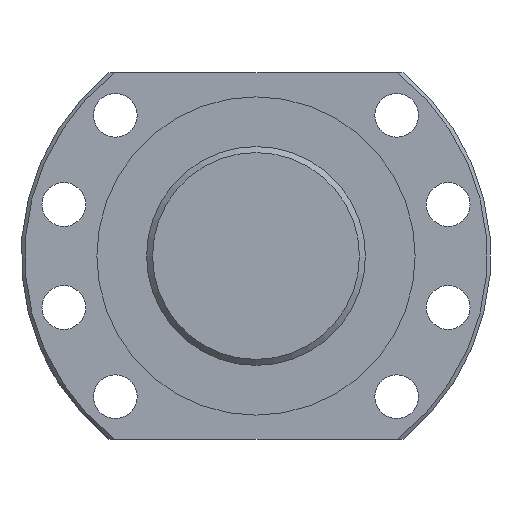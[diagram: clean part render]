
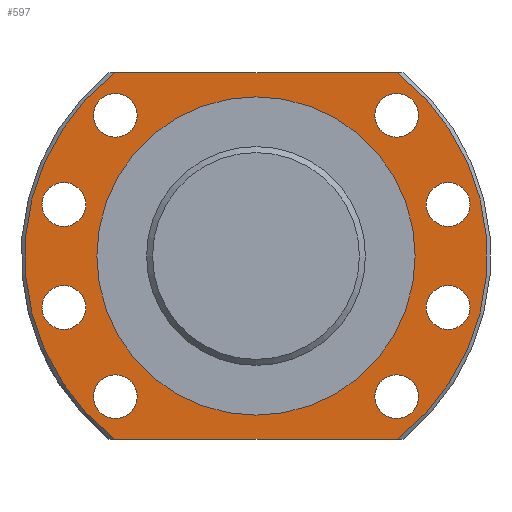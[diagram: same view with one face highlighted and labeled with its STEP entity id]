
A CAD part, left-side view. The second image highlights one B-rep face of the part: STEP entity #597.
In plain terms, the highlighted planar face has unit normal (-1, 0, 0).
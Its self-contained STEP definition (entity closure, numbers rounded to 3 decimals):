
#24=LINE('',#1102,#32);
#25=LINE('',#1103,#33);
#32=VECTOR('',#879,1000.);
#33=VECTOR('',#880,1000.);
#159=ORIENTED_EDGE('',*,*,#263,.T.);
#160=ORIENTED_EDGE('',*,*,#264,.T.);
#161=ORIENTED_EDGE('',*,*,#265,.T.);
#162=ORIENTED_EDGE('',*,*,#266,.T.);
#163=ORIENTED_EDGE('',*,*,#267,.T.);
#164=ORIENTED_EDGE('',*,*,#268,.T.);
#165=ORIENTED_EDGE('',*,*,#269,.T.);
#166=ORIENTED_EDGE('',*,*,#270,.T.);
#167=ORIENTED_EDGE('',*,*,#271,.T.);
#168=ORIENTED_EDGE('',*,*,#272,.F.);
#169=ORIENTED_EDGE('',*,*,#233,.F.);
#170=ORIENTED_EDGE('',*,*,#273,.F.);
#171=ORIENTED_EDGE('',*,*,#261,.F.);
#233=EDGE_CURVE('',#295,#294,#343,.T.);
#261=EDGE_CURVE('',#319,#320,#366,.T.);
#263=EDGE_CURVE('',#321,#321,#367,.T.);
#264=EDGE_CURVE('',#322,#322,#368,.F.);
#265=EDGE_CURVE('',#323,#323,#369,.F.);
#266=EDGE_CURVE('',#324,#324,#370,.F.);
#267=EDGE_CURVE('',#325,#325,#371,.F.);
#268=EDGE_CURVE('',#326,#326,#372,.F.);
#269=EDGE_CURVE('',#327,#327,#373,.F.);
#270=EDGE_CURVE('',#328,#328,#374,.F.);
#271=EDGE_CURVE('',#329,#329,#375,.F.);
#272=EDGE_CURVE('',#294,#319,#24,.T.);
#273=EDGE_CURVE('',#320,#295,#25,.T.);
#294=VERTEX_POINT('',#994);
#295=VERTEX_POINT('',#999);
#319=VERTEX_POINT('',#1076);
#320=VERTEX_POINT('',#1078);
#321=VERTEX_POINT('',#1085);
#322=VERTEX_POINT('',#1087);
#323=VERTEX_POINT('',#1089);
#324=VERTEX_POINT('',#1091);
#325=VERTEX_POINT('',#1093);
#326=VERTEX_POINT('',#1095);
#327=VERTEX_POINT('',#1097);
#328=VERTEX_POINT('',#1099);
#329=VERTEX_POINT('',#1101);
#343=CIRCLE('',#660,58.1);
#366=CIRCLE('',#699,58.1);
#367=CIRCLE('',#701,40.);
#368=CIRCLE('',#702,5.5);
#369=CIRCLE('',#703,5.5);
#370=CIRCLE('',#704,5.5);
#371=CIRCLE('',#705,5.5);
#372=CIRCLE('',#706,5.5);
#373=CIRCLE('',#707,5.5);
#374=CIRCLE('',#708,5.5);
#375=CIRCLE('',#709,5.5);
#432=EDGE_LOOP('',(#159));
#433=EDGE_LOOP('',(#160));
#434=EDGE_LOOP('',(#161));
#435=EDGE_LOOP('',(#162));
#436=EDGE_LOOP('',(#163));
#437=EDGE_LOOP('',(#164));
#438=EDGE_LOOP('',(#165));
#439=EDGE_LOOP('',(#166));
#440=EDGE_LOOP('',(#167));
#441=EDGE_LOOP('',(#168,#169,#170,#171));
#522=FACE_BOUND('',#432,.T.);
#523=FACE_BOUND('',#433,.T.);
#524=FACE_BOUND('',#434,.T.);
#525=FACE_BOUND('',#435,.T.);
#526=FACE_BOUND('',#436,.T.);
#527=FACE_BOUND('',#437,.T.);
#528=FACE_BOUND('',#438,.T.);
#529=FACE_BOUND('',#439,.T.);
#530=FACE_BOUND('',#440,.T.);
#531=FACE_BOUND('',#441,.T.);
#568=PLANE('',#700);
#597=ADVANCED_FACE('',(#522,#523,#524,#525,#526,#527,#528,#529,#530,#531),
#568,.T.);
#660=AXIS2_PLACEMENT_3D('',#1000,#777,#778);
#699=AXIS2_PLACEMENT_3D('',#1077,#857,#858);
#700=AXIS2_PLACEMENT_3D('',#1083,#859,#860);
#701=AXIS2_PLACEMENT_3D('',#1084,#861,#862);
#702=AXIS2_PLACEMENT_3D('',#1086,#863,#864);
#703=AXIS2_PLACEMENT_3D('',#1088,#865,#866);
#704=AXIS2_PLACEMENT_3D('',#1090,#867,#868);
#705=AXIS2_PLACEMENT_3D('',#1092,#869,#870);
#706=AXIS2_PLACEMENT_3D('',#1094,#871,#872);
#707=AXIS2_PLACEMENT_3D('',#1096,#873,#874);
#708=AXIS2_PLACEMENT_3D('',#1098,#875,#876);
#709=AXIS2_PLACEMENT_3D('',#1100,#877,#878);
#777=DIRECTION('',(1.,0.,0.));
#778=DIRECTION('',(0.,0.,-1.));
#857=DIRECTION('',(1.,0.,0.));
#858=DIRECTION('',(0.,0.,-1.));
#859=DIRECTION('',(-1.,0.,0.));
#860=DIRECTION('',(0.,0.,1.));
#861=DIRECTION('',(1.,0.,0.));
#862=DIRECTION('',(0.,0.,-1.));
#863=DIRECTION('',(-1.,0.,0.));
#864=DIRECTION('',(0.,0.,1.));
#865=DIRECTION('',(-1.,0.,0.));
#866=DIRECTION('',(0.,0.,1.));
#867=DIRECTION('',(-1.,0.,0.));
#868=DIRECTION('',(0.,0.,1.));
#869=DIRECTION('',(-1.,0.,0.));
#870=DIRECTION('',(0.,0.,1.));
#871=DIRECTION('',(-1.,0.,0.));
#872=DIRECTION('',(0.,0.,1.));
#873=DIRECTION('',(-1.,0.,0.));
#874=DIRECTION('',(0.,0.,1.));
#875=DIRECTION('',(-1.,0.,0.));
#876=DIRECTION('',(0.,0.,1.));
#877=DIRECTION('',(-1.,0.,0.));
#878=DIRECTION('',(0.,0.,1.));
#879=DIRECTION('',(0.,1.,0.));
#880=DIRECTION('',(0.,-1.,0.));
#994=CARTESIAN_POINT('',(0.5,-35.491,-46.));
#999=CARTESIAN_POINT('',(0.5,-35.491,46.));
#1000=CARTESIAN_POINT('',(0.5,0.,0.));
#1076=CARTESIAN_POINT('',(0.5,35.491,-46.));
#1077=CARTESIAN_POINT('',(0.5,0.,0.));
#1078=CARTESIAN_POINT('',(0.5,35.491,46.));
#1083=CARTESIAN_POINT('',(0.5,58.1,0.));
#1084=CARTESIAN_POINT('',(0.5,0.,0.));
#1085=CARTESIAN_POINT('',(0.5,0.,-40.));
#1086=CARTESIAN_POINT('',(0.5,-35.355,35.355));
#1087=CARTESIAN_POINT('',(0.5,-35.355,40.855));
#1088=CARTESIAN_POINT('',(0.5,35.355,-35.355));
#1089=CARTESIAN_POINT('',(0.5,35.355,-29.855));
#1090=CARTESIAN_POINT('',(0.5,-35.355,-35.355));
#1091=CARTESIAN_POINT('',(0.5,-35.355,-29.855));
#1092=CARTESIAN_POINT('',(0.5,35.355,35.355));
#1093=CARTESIAN_POINT('',(0.5,35.355,40.855));
#1094=CARTESIAN_POINT('',(0.5,48.296,-12.941));
#1095=CARTESIAN_POINT('',(0.5,48.296,-7.441));
#1096=CARTESIAN_POINT('',(0.5,-48.296,12.941));
#1097=CARTESIAN_POINT('',(0.5,-48.296,18.441));
#1098=CARTESIAN_POINT('',(0.5,48.296,12.941));
#1099=CARTESIAN_POINT('',(0.5,48.296,18.441));
#1100=CARTESIAN_POINT('',(0.5,-48.296,-12.941));
#1101=CARTESIAN_POINT('',(0.5,-48.296,-7.441));
#1102=CARTESIAN_POINT('',(0.5,58.1,-46.));
#1103=CARTESIAN_POINT('',(0.5,58.1,46.));
